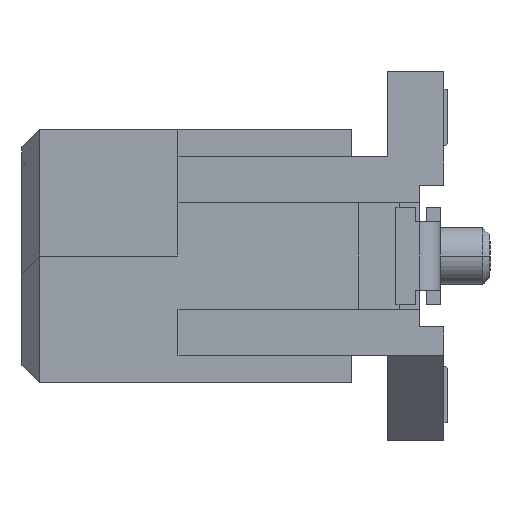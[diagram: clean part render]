
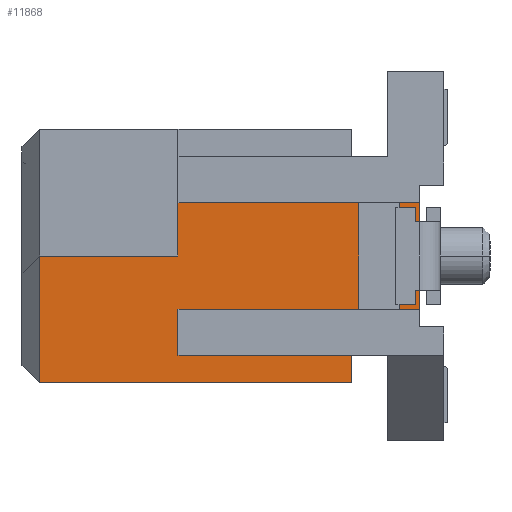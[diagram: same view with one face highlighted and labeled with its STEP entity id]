
A CAD part, left-side view. The second image highlights one B-rep face of the part: STEP entity #11868.
In plain terms, the highlighted planar face has unit normal (-1, 0, 0).
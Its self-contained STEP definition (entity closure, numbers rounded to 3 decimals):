
#233=DIRECTION('',(0.,1.,0.));
#234=VECTOR('',#233,2.45);
#235=CARTESIAN_POINT('',(-8.235,-1.65,-1.4));
#236=LINE('',#235,#234);
#473=DIRECTION('',(0.,0.,1.));
#474=VECTOR('',#473,0.39);
#475=CARTESIAN_POINT('',(-8.235,-1.65,-1.79));
#476=LINE('',#475,#474);
#3609=DIRECTION('',(0.,0.,-1.));
#3610=VECTOR('',#3609,1.79);
#3611=CARTESIAN_POINT('',(-8.235,2.75,0.));
#3612=LINE('',#3611,#3610);
#3613=DIRECTION('',(0.,-1.,0.));
#3614=VECTOR('',#3613,1.95);
#3615=CARTESIAN_POINT('',(-8.235,2.75,0.));
#3616=LINE('',#3615,#3614);
#3617=DIRECTION('',(0.,0.,1.));
#3618=VECTOR('',#3617,1.125);
#3619=CARTESIAN_POINT('',(-8.235,0.8,0.));
#3620=LINE('',#3619,#3618);
#3621=DIRECTION('',(0.,-1.,0.));
#3622=VECTOR('',#3621,3.2);
#3623=CARTESIAN_POINT('',(-8.235,0.8,1.125));
#3624=LINE('',#3623,#3622);
#3625=DIRECTION('',(0.,-1.,0.));
#3626=VECTOR('',#3625,0.2);
#3627=CARTESIAN_POINT('',(-8.235,-2.4,0.75));
#3628=LINE('',#3627,#3626);
#3629=DIRECTION('',(0.,0.,-1.));
#3630=VECTOR('',#3629,0.265);
#3631=CARTESIAN_POINT('',(-8.235,-2.6,0.75));
#3632=LINE('',#3631,#3630);
#3633=DIRECTION('',(0.,-1.,0.));
#3634=VECTOR('',#3633,0.05);
#3635=CARTESIAN_POINT('',(-8.235,-2.55,0.485));
#3636=LINE('',#3635,#3634);
#3637=DIRECTION('',(0.,0.,-1.));
#3638=VECTOR('',#3637,0.2);
#3639=CARTESIAN_POINT('',(-8.235,-2.55,0.685));
#3640=LINE('',#3639,#3638);
#3641=DIRECTION('',(0.,1.,0.));
#3642=VECTOR('',#3641,0.23);
#3643=CARTESIAN_POINT('',(-8.235,-2.55,0.685));
#3644=LINE('',#3643,#3642);
#3645=DIRECTION('',(0.,0.,1.));
#3646=VECTOR('',#3645,0.415);
#3647=CARTESIAN_POINT('',(-8.235,-2.32,0.685));
#3648=LINE('',#3647,#3646);
#3649=DIRECTION('',(0.,1.,0.));
#3650=VECTOR('',#3649,0.57);
#3651=CARTESIAN_POINT('',(-8.235,-2.32,1.1));
#3652=LINE('',#3651,#3650);
#3653=DIRECTION('',(0.,0.,1.));
#3654=VECTOR('',#3653,2.2);
#3655=CARTESIAN_POINT('',(-8.235,-1.75,-1.1));
#3656=LINE('',#3655,#3654);
#3657=DIRECTION('',(0.,1.,0.));
#3658=VECTOR('',#3657,0.57);
#3659=CARTESIAN_POINT('',(-8.235,-2.32,-1.1));
#3660=LINE('',#3659,#3658);
#3661=DIRECTION('',(0.,0.,1.));
#3662=VECTOR('',#3661,0.415);
#3663=CARTESIAN_POINT('',(-8.235,-2.32,-1.1));
#3664=LINE('',#3663,#3662);
#3665=DIRECTION('',(0.,1.,0.));
#3666=VECTOR('',#3665,0.23);
#3667=CARTESIAN_POINT('',(-8.235,-2.55,-0.685));
#3668=LINE('',#3667,#3666);
#3669=DIRECTION('',(0.,0.,-1.));
#3670=VECTOR('',#3669,0.2);
#3671=CARTESIAN_POINT('',(-8.235,-2.55,-0.485));
#3672=LINE('',#3671,#3670);
#3673=DIRECTION('',(0.,1.,0.));
#3674=VECTOR('',#3673,0.05);
#3675=CARTESIAN_POINT('',(-8.235,-2.6,-0.485));
#3676=LINE('',#3675,#3674);
#3677=DIRECTION('',(0.,0.,-1.));
#3678=VECTOR('',#3677,0.265);
#3679=CARTESIAN_POINT('',(-8.235,-2.6,-0.485));
#3680=LINE('',#3679,#3678);
#3681=DIRECTION('',(0.,0.,-1.));
#3682=VECTOR('',#3681,0.275);
#3683=CARTESIAN_POINT('',(-8.235,0.8,-1.125));
#3684=LINE('',#3683,#3682);
#3709=DIRECTION('',(0.,-1.,0.));
#3710=VECTOR('',#3709,3.2);
#3711=CARTESIAN_POINT('',(-8.235,0.8,-1.125));
#3712=LINE('',#3711,#3710);
#3717=DIRECTION('',(0.,0.,-1.));
#3718=VECTOR('',#3717,0.375);
#3719=CARTESIAN_POINT('',(-8.235,-2.4,1.125));
#3720=LINE('',#3719,#3718);
#3733=DIRECTION('',(0.,0.,-1.));
#3734=VECTOR('',#3733,0.375);
#3735=CARTESIAN_POINT('',(-8.235,-2.4,-0.75));
#3736=LINE('',#3735,#3734);
#3961=DIRECTION('',(0.,-1.,0.));
#3962=VECTOR('',#3961,0.2);
#3963=CARTESIAN_POINT('',(-8.235,-2.4,-0.75));
#3964=LINE('',#3963,#3962);
#4677=DIRECTION('',(0.,-1.,0.));
#4678=VECTOR('',#4677,4.4);
#4679=CARTESIAN_POINT('',(-8.235,2.75,-1.79));
#4680=LINE('',#4679,#4678);
#5215=CARTESIAN_POINT('',(-8.235,-1.65,-1.79));
#5216=CARTESIAN_POINT('',(-8.235,-1.65,-1.4));
#5217=VERTEX_POINT('',#5215);
#5218=VERTEX_POINT('',#5216);
#5254=CARTESIAN_POINT('',(-8.235,0.8,-1.4));
#5256=VERTEX_POINT('',#5254);
#5407=CARTESIAN_POINT('',(-8.235,-2.6,0.75));
#5408=VERTEX_POINT('',#5407);
#5409=CARTESIAN_POINT('',(-8.235,-2.6,-0.75));
#5410=VERTEX_POINT('',#5409);
#5411=CARTESIAN_POINT('',(-8.235,-2.4,-1.125));
#5413=VERTEX_POINT('',#5411);
#5416=CARTESIAN_POINT('',(-8.235,-2.4,1.125));
#5418=VERTEX_POINT('',#5416);
#5419=CARTESIAN_POINT('',(-8.235,0.8,-1.125));
#5421=VERTEX_POINT('',#5419);
#5427=CARTESIAN_POINT('',(-8.235,0.8,1.125));
#5428=VERTEX_POINT('',#5427);
#5433=CARTESIAN_POINT('',(-8.235,0.8,0.));
#5434=VERTEX_POINT('',#5433);
#5435=CARTESIAN_POINT('',(-8.235,-2.4,0.75));
#5436=VERTEX_POINT('',#5435);
#5437=CARTESIAN_POINT('',(-8.235,-2.4,-0.75));
#5439=VERTEX_POINT('',#5437);
#5441=CARTESIAN_POINT('',(-8.235,-1.75,-1.1));
#5442=CARTESIAN_POINT('',(-8.235,-1.75,1.1));
#5443=VERTEX_POINT('',#5441);
#5444=VERTEX_POINT('',#5442);
#5469=CARTESIAN_POINT('',(-8.235,-2.32,-1.1));
#5470=VERTEX_POINT('',#5469);
#5471=CARTESIAN_POINT('',(-8.235,-2.32,1.1));
#5472=VERTEX_POINT('',#5471);
#5497=CARTESIAN_POINT('',(-8.235,-2.6,-0.485));
#5498=CARTESIAN_POINT('',(-8.235,-2.55,-0.485));
#5499=VERTEX_POINT('',#5497);
#5500=VERTEX_POINT('',#5498);
#5501=CARTESIAN_POINT('',(-8.235,-2.55,0.485));
#5502=CARTESIAN_POINT('',(-8.235,-2.6,0.485));
#5503=VERTEX_POINT('',#5501);
#5504=VERTEX_POINT('',#5502);
#6484=CARTESIAN_POINT('',(-8.235,-2.32,-0.685));
#6486=VERTEX_POINT('',#6484);
#6488=CARTESIAN_POINT('',(-8.235,-2.32,0.685));
#6490=VERTEX_POINT('',#6488);
#6507=CARTESIAN_POINT('',(-8.235,-2.55,-0.685));
#6508=VERTEX_POINT('',#6507);
#6509=CARTESIAN_POINT('',(-8.235,-2.55,0.685));
#6510=VERTEX_POINT('',#6509);
#6801=CARTESIAN_POINT('',(-8.235,2.75,-1.79));
#6802=VERTEX_POINT('',#6801);
#6805=CARTESIAN_POINT('',(-8.235,2.75,0.));
#6806=VERTEX_POINT('',#6805);
#11821=CARTESIAN_POINT('',(-8.235,-1.65,1.79));
#11822=DIRECTION('',(1.,0.,0.));
#11823=DIRECTION('',(0.,1.,0.));
#11824=AXIS2_PLACEMENT_3D('',#11821,#11822,#11823);
#11825=PLANE('',#11824);
#11826=ORIENTED_EDGE('',*,*,#8758,.F.);
#11828=ORIENTED_EDGE('',*,*,#11827,.T.);
#11830=ORIENTED_EDGE('',*,*,#11829,.T.);
#11832=ORIENTED_EDGE('',*,*,#11831,.T.);
#11834=ORIENTED_EDGE('',*,*,#11833,.T.);
#11835=ORIENTED_EDGE('',*,*,#10975,.T.);
#11837=ORIENTED_EDGE('',*,*,#11836,.T.);
#11838=ORIENTED_EDGE('',*,*,#11652,.F.);
#11839=ORIENTED_EDGE('',*,*,#11713,.F.);
#11840=ORIENTED_EDGE('',*,*,#11739,.T.);
#11841=ORIENTED_EDGE('',*,*,#11802,.T.);
#11843=ORIENTED_EDGE('',*,*,#11842,.T.);
#11845=ORIENTED_EDGE('',*,*,#11844,.F.);
#11847=ORIENTED_EDGE('',*,*,#11846,.F.);
#11848=ORIENTED_EDGE('',*,*,#11781,.T.);
#11849=ORIENTED_EDGE('',*,*,#11384,.F.);
#11850=ORIENTED_EDGE('',*,*,#11441,.F.);
#11851=ORIENTED_EDGE('',*,*,#11050,.F.);
#11853=ORIENTED_EDGE('',*,*,#11852,.T.);
#11855=ORIENTED_EDGE('',*,*,#11854,.F.);
#11857=ORIENTED_EDGE('',*,*,#11856,.T.);
#11859=ORIENTED_EDGE('',*,*,#11858,.F.);
#11861=ORIENTED_EDGE('',*,*,#11860,.T.);
#11862=ORIENTED_EDGE('',*,*,#7095,.F.);
#11863=ORIENTED_EDGE('',*,*,#7133,.F.);
#11865=ORIENTED_EDGE('',*,*,#11864,.F.);
#11866=EDGE_LOOP('',(#11826,#11828,#11830,#11832,#11834,#11835,#11837,#11838,
#11839,#11840,#11841,#11843,#11845,#11847,#11848,#11849,#11850,#11851,#11853,
#11855,#11857,#11859,#11861,#11862,#11863,#11865));
#11867=FACE_OUTER_BOUND('',#11866,.F.);
#11868=ADVANCED_FACE('',(#11867),#11825,.F.);
#7095=EDGE_CURVE('',#5218,#5256,#236,.T.);
#7133=EDGE_CURVE('',#5217,#5218,#476,.T.);
#8758=EDGE_CURVE('',#6806,#6802,#3612,.T.);
#10975=EDGE_CURVE('',#5436,#5408,#3628,.T.);
#11050=EDGE_CURVE('',#5499,#5500,#3676,.T.);
#11384=EDGE_CURVE('',#6508,#6486,#3668,.T.);
#11441=EDGE_CURVE('',#5500,#6508,#3672,.T.);
#11652=EDGE_CURVE('',#5503,#5504,#3636,.T.);
#11713=EDGE_CURVE('',#6510,#5503,#3640,.T.);
#11739=EDGE_CURVE('',#6510,#6490,#3644,.T.);
#11781=EDGE_CURVE('',#5470,#6486,#3664,.T.);
#11802=EDGE_CURVE('',#6490,#5472,#3648,.T.);
#11827=EDGE_CURVE('',#6806,#5434,#3616,.T.);
#11829=EDGE_CURVE('',#5434,#5428,#3620,.T.);
#11831=EDGE_CURVE('',#5428,#5418,#3624,.T.);
#11833=EDGE_CURVE('',#5418,#5436,#3720,.T.);
#11836=EDGE_CURVE('',#5408,#5504,#3632,.T.);
#11842=EDGE_CURVE('',#5472,#5444,#3652,.T.);
#11844=EDGE_CURVE('',#5443,#5444,#3656,.T.);
#11846=EDGE_CURVE('',#5470,#5443,#3660,.T.);
#11852=EDGE_CURVE('',#5499,#5410,#3680,.T.);
#11854=EDGE_CURVE('',#5439,#5410,#3964,.T.);
#11856=EDGE_CURVE('',#5439,#5413,#3736,.T.);
#11858=EDGE_CURVE('',#5421,#5413,#3712,.T.);
#11860=EDGE_CURVE('',#5421,#5256,#3684,.T.);
#11864=EDGE_CURVE('',#6802,#5217,#4680,.T.);
